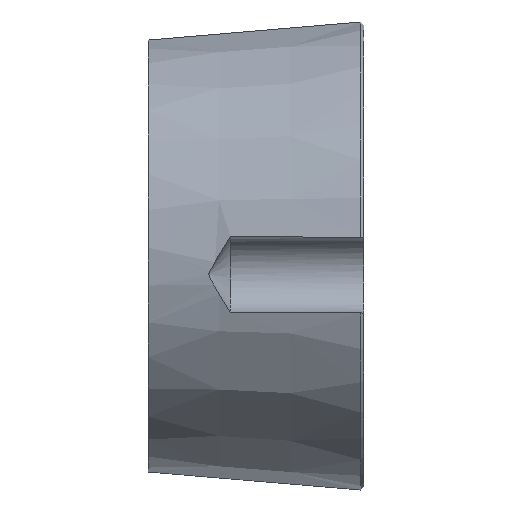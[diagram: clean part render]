
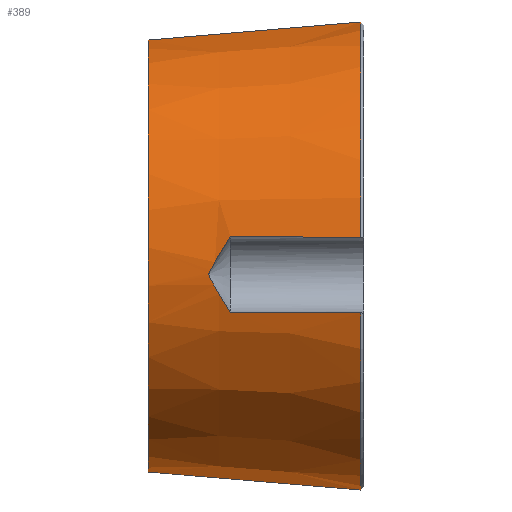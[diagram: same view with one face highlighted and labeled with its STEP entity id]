
A CAD part, left-side view. The second image highlights one B-rep face of the part: STEP entity #389.
In plain terms, the highlighted conical face has half-angle 4.832 degrees and reference radius 33.532 mm.
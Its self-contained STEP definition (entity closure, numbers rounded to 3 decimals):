
#71=FACE_OUTER_BOUND('',#93,.T.);
#93=EDGE_LOOP('',(#314,#315,#316,#317,#318,#319,#320,#321));
#110=(
BOUNDED_CURVE()
B_SPLINE_CURVE(2,(#688,#689,#690),.UNSPECIFIED.,.F.,.F.)
B_SPLINE_CURVE_WITH_KNOTS((3,3),(0.,3.163),.UNSPECIFIED.)
CURVE()
GEOMETRIC_REPRESENTATION_ITEM()
RATIONAL_B_SPLINE_CURVE((1.,1.001,1.))
REPRESENTATION_ITEM('')
);
#111=CIRCLE('',#402,34.843);
#127=CIRCLE('',#429,34.843);
#128=CIRCLE('',#431,32.18);
#135=B_SPLINE_CURVE_WITH_KNOTS('',3,(#575,#576,#577,#578,#579,#580),
 .UNSPECIFIED.,.F.,.F.,(4,2,4),(0.958,2.142,2.741),
 .UNSPECIFIED.);
#136=B_SPLINE_CURVE_WITH_KNOTS('',3,(#583,#584,#585,#586,#587,#588),
 .UNSPECIFIED.,.F.,.F.,(4,2,4),(1.005,1.604,2.788),
 .UNSPECIFIED.);
#143=B_SPLINE_CURVE_WITH_KNOTS('',3,(#702,#703,#704,#705,#706,#707,#708,
#709,#710,#711,#712,#713,#714,#715,#716,#717,#718,#719,#720,#721,#722,#723,
#724,#725,#726,#727),.UNSPECIFIED.,.F.,.F.,(4,2,2,2,2,2,2,2,2,2,2,2,4),
(1.858,1.908,2.21,2.361,2.437,
2.475,2.513,2.55,2.588,2.664,
2.815,3.117,3.167),.UNSPECIFIED.);
#144=B_SPLINE_CURVE_WITH_KNOTS('',3,(#729,#730,#731,#732,#733,#734,#735,
#736),.UNSPECIFIED.,.F.,.F.,(4,2,2,4),(1.003,1.514,
3.028,3.954),.UNSPECIFIED.);
#147=VERTEX_POINT('',#553);
#149=VERTEX_POINT('',#559);
#152=VERTEX_POINT('',#569);
#153=VERTEX_POINT('',#574);
#154=VERTEX_POINT('',#581);
#180=VERTEX_POINT('',#687);
#182=VERTEX_POINT('',#695);
#183=VERTEX_POINT('',#728);
#188=EDGE_CURVE('',#147,#149,#111,.T.);
#193=EDGE_CURVE('',#153,#152,#135,.T.);
#195=EDGE_CURVE('',#147,#154,#136,.T.);
#229=EDGE_CURVE('',#180,#149,#110,.T.);
#233=EDGE_CURVE('',#182,#152,#127,.T.);
#234=EDGE_CURVE('',#153,#154,#143,.T.);
#235=EDGE_CURVE('',#182,#183,#144,.T.);
#236=EDGE_CURVE('',#180,#183,#128,.T.);
#314=ORIENTED_EDGE('',*,*,#188,.F.);
#315=ORIENTED_EDGE('',*,*,#195,.T.);
#316=ORIENTED_EDGE('',*,*,#234,.F.);
#317=ORIENTED_EDGE('',*,*,#193,.T.);
#318=ORIENTED_EDGE('',*,*,#233,.F.);
#319=ORIENTED_EDGE('',*,*,#235,.T.);
#320=ORIENTED_EDGE('',*,*,#236,.F.);
#321=ORIENTED_EDGE('',*,*,#229,.T.);
#373=CONICAL_SURFACE('',#430,33.533,4.832);
#389=ADVANCED_FACE('',(#71),#373,.T.);
#402=AXIS2_PLACEMENT_3D('',#560,#449,#450);
#429=AXIS2_PLACEMENT_3D('',#700,#515,#516);
#430=AXIS2_PLACEMENT_3D('',#701,#517,#518);
#431=AXIS2_PLACEMENT_3D('',#737,#519,#520);
#449=DIRECTION('center_axis',(0.,-1.,0.));
#450=DIRECTION('ref_axis',(0.,0.,
-1.));
#515=DIRECTION('center_axis',(0.,-1.,0.));
#516=DIRECTION('ref_axis',(0.,0.,1.));
#517=DIRECTION('center_axis',(0.,-1.,0.));
#518=DIRECTION('ref_axis',(0.,0.,-1.));
#519=DIRECTION('center_axis',(0.,1.,0.));
#520=DIRECTION('ref_axis',(1.,0.,0.));
#553=CARTESIAN_POINT('',(-33.77,-6.097,-25.059));
#559=CARTESIAN_POINT('',(-1.,-6.097,-51.309));
#560=CARTESIAN_POINT('Origin',(0.,-6.097,-16.48));
#569=CARTESIAN_POINT('',(-34.747,-6.097,-13.896));
#574=CARTESIAN_POINT('',(-33.094,13.204,-13.687));
#575=CARTESIAN_POINT('Ctrl Pts',(-33.094,13.204,-13.687));
#576=CARTESIAN_POINT('Ctrl Pts',(-33.442,9.093,-13.68));
#577=CARTESIAN_POINT('Ctrl Pts',(-33.811,4.767,-13.705));
#578=CARTESIAN_POINT('Ctrl Pts',(-34.371,-1.747,-13.802));
#579=CARTESIAN_POINT('Ctrl Pts',(-34.56,-3.936,-13.844));
#580=CARTESIAN_POINT('Ctrl Pts',(-34.747,-6.097,-13.896));
#581=CARTESIAN_POINT('',(-32.106,13.204,-24.977));
#583=CARTESIAN_POINT('Ctrl Pts',(-33.77,-6.097,-25.059));
#584=CARTESIAN_POINT('Ctrl Pts',(-33.577,-3.936,-25.078));
#585=CARTESIAN_POINT('Ctrl Pts',(-33.384,-1.747,-25.087));
#586=CARTESIAN_POINT('Ctrl Pts',(-32.815,4.767,-25.085));
#587=CARTESIAN_POINT('Ctrl Pts',(-32.448,9.093,-25.045));
#588=CARTESIAN_POINT('Ctrl Pts',(-32.106,13.204,-24.977));
#687=CARTESIAN_POINT('',(-1.,25.404,-48.645));
#688=CARTESIAN_POINT('Ctrl Pts',(-1.,25.404,-48.645));
#689=CARTESIAN_POINT('Ctrl Pts',(-1.,10.28,-49.924));
#690=CARTESIAN_POINT('Ctrl Pts',(-1.,-6.097,-51.309));
#695=CARTESIAN_POINT('',(-4.511,-6.097,18.07));
#700=CARTESIAN_POINT('Origin',(0.,-6.097,-16.48));
#701=CARTESIAN_POINT('Origin',(0.,9.404,-16.48));
#702=CARTESIAN_POINT('Ctrl Pts',(-33.094,13.204,-13.687));
#703=CARTESIAN_POINT('Ctrl Pts',(-33.098,13.291,-13.831));
#704=CARTESIAN_POINT('Ctrl Pts',(-33.102,13.377,-13.974));
#705=CARTESIAN_POINT('Ctrl Pts',(-33.123,13.981,-14.979));
#706=CARTESIAN_POINT('Ctrl Pts',(-33.106,14.53,-15.892));
#707=CARTESIAN_POINT('Ctrl Pts',(-33.026,15.327,-17.225));
#708=CARTESIAN_POINT('Ctrl Pts',(-32.992,15.586,-17.659));
#709=CARTESIAN_POINT('Ctrl Pts',(-32.93,15.95,-18.289));
#710=CARTESIAN_POINT('Ctrl Pts',(-32.908,16.067,-18.494));
#711=CARTESIAN_POINT('Ctrl Pts',(-32.874,16.225,-18.802));
#712=CARTESIAN_POINT('Ctrl Pts',(-32.863,16.275,-18.904));
#713=CARTESIAN_POINT('Ctrl Pts',(-32.839,16.357,-19.116));
#714=CARTESIAN_POINT('Ctrl Pts',(-32.828,16.39,-19.226));
#715=CARTESIAN_POINT('Ctrl Pts',(-32.806,16.39,-19.477));
#716=CARTESIAN_POINT('Ctrl Pts',(-32.798,16.357,-19.587));
#717=CARTESIAN_POINT('Ctrl Pts',(-32.784,16.275,-19.8));
#718=CARTESIAN_POINT('Ctrl Pts',(-32.778,16.225,-19.902));
#719=CARTESIAN_POINT('Ctrl Pts',(-32.758,16.067,-20.211));
#720=CARTESIAN_POINT('Ctrl Pts',(-32.744,15.95,-20.417));
#721=CARTESIAN_POINT('Ctrl Pts',(-32.695,15.586,-21.048));
#722=CARTESIAN_POINT('Ctrl Pts',(-32.654,15.327,-21.481));
#723=CARTESIAN_POINT('Ctrl Pts',(-32.501,14.53,-22.808));
#724=CARTESIAN_POINT('Ctrl Pts',(-32.359,13.981,-23.71));
#725=CARTESIAN_POINT('Ctrl Pts',(-32.164,13.377,-24.697));
#726=CARTESIAN_POINT('Ctrl Pts',(-32.136,13.291,-24.837));
#727=CARTESIAN_POINT('Ctrl Pts',(-32.106,13.204,-24.977));
#728=CARTESIAN_POINT('',(-4.434,25.404,15.393));
#729=CARTESIAN_POINT('Ctrl Pts',(-4.511,-6.097,18.07));
#730=CARTESIAN_POINT('Ctrl Pts',(-4.554,-4.251,17.906));
#731=CARTESIAN_POINT('Ctrl Pts',(-4.589,-2.385,17.743));
#732=CARTESIAN_POINT('Ctrl Pts',(-4.689,5.01,17.098));
#733=CARTESIAN_POINT('Ctrl Pts',(-4.684,10.541,16.627));
#734=CARTESIAN_POINT('Ctrl Pts',(-4.588,18.644,15.948));
#735=CARTESIAN_POINT('Ctrl Pts',(-4.525,22.023,15.669));
#736=CARTESIAN_POINT('Ctrl Pts',(-4.434,25.404,15.393));
#737=CARTESIAN_POINT('Origin',(0.,25.404,-16.48));
